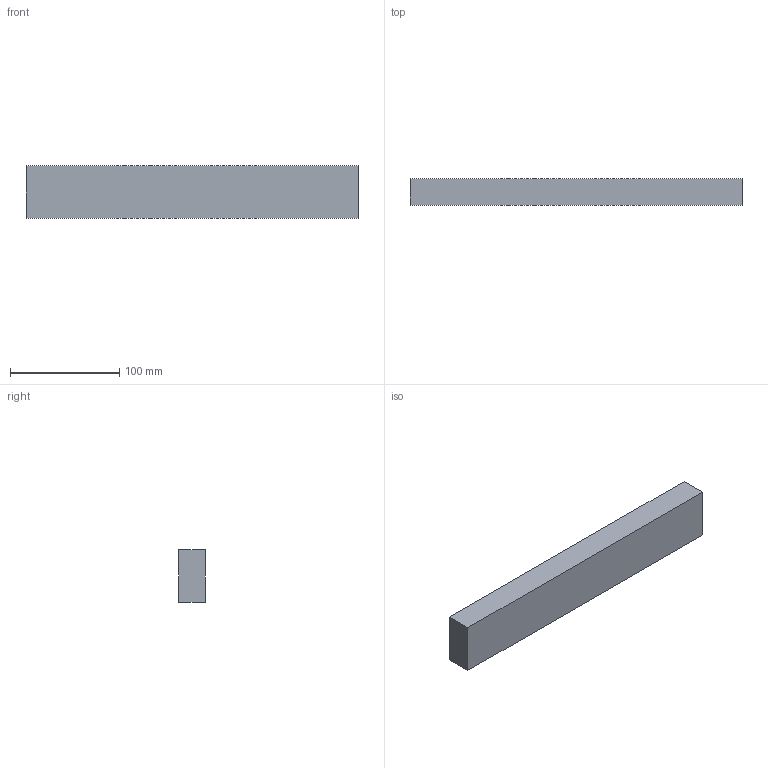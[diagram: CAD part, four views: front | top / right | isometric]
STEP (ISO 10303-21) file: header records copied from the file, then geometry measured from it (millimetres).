
FILE_DESCRIPTION (( 'STEP AP203' ), '1' );
FILE_NAME ('Tasseau_304_dessous.STEP', '2026-06-24T07:29:48', ( '' ), ( '' ), 'SwSTEP 2.0', 'SolidWorks 2024', '' );
FILE_SCHEMA (( 'CONFIG_CONTROL_DESIGN' ));
Length unit declared in the file: millimetre
Products named in the file (1): Tasseau_304_dessous
Bounding box: 304 x 24 x 48 mm (x, y, z)
Volume: 350208 mm3; surface area: 46080 mm2
Topology: 1 solids, 1 shells, 6 faces, 12 edges, 8 vertices
Faces by surface type: plane 6
Entity records: 231 total; most frequent: CARTESIAN_POINT 27, DIRECTION 26, ORIENTED_EDGE 24, LINE 12, VECTOR 12, EDGE_CURVE 12, PERSON_AND_ORGANIZATION 8, VERTEX_POINT 8
